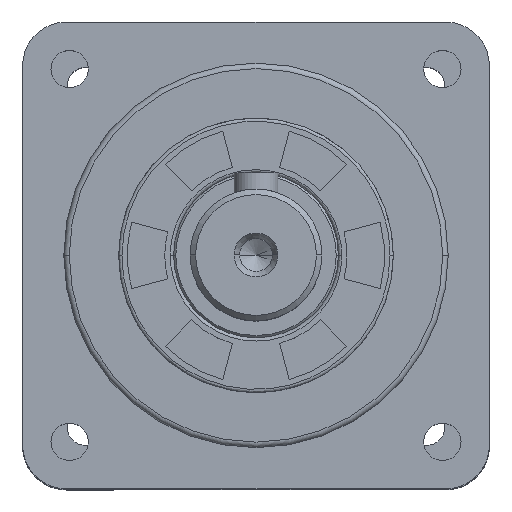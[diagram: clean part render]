
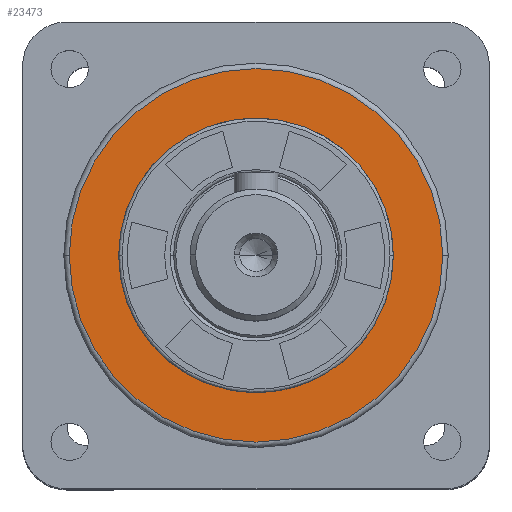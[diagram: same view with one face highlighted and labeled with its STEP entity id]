
A CAD part, top view. The second image highlights one B-rep face of the part: STEP entity #23473.
In plain terms, the highlighted planar face has unit normal (0, 0, 1).
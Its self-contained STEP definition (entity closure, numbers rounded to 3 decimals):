
#265 = AXIS2_PLACEMENT_3D ( 'NONE', #9921, #7564, #1534 ) ;
#299 = AXIS2_PLACEMENT_3D ( 'NONE', #1991, #16458, #3902 ) ;
#592 = ORIENTED_EDGE ( 'NONE', *, *, #10658, .T. ) ;
#1208 = CARTESIAN_POINT ( 'NONE',  ( 17., 0., 14.8 ) ) ;
#1534 = DIRECTION ( 'NONE',  ( 1., 0., 0. ) ) ;
#1587 = DIRECTION ( 'NONE',  ( 0., 0., 1. ) ) ;
#1607 = DIRECTION ( 'NONE',  ( 0., 0., 1. ) ) ;
#1991 = CARTESIAN_POINT ( 'NONE',  ( 0., 0., 14.8 ) ) ;
#2288 = EDGE_LOOP ( 'NONE', ( #592, #14437 ) ) ;
#3902 = DIRECTION ( 'NONE',  ( 1., 0., 0. ) ) ;
#4171 = CARTESIAN_POINT ( 'NONE',  ( -12.5, 0., 14.8 ) ) ;
#5940 = ORIENTED_EDGE ( 'NONE', *, *, #9300, .F. ) ;
#6894 = CARTESIAN_POINT ( 'NONE',  ( 12.5, 0., 14.8 ) ) ;
#7184 = ORIENTED_EDGE ( 'NONE', *, *, #25362, .F. ) ;
#7564 = DIRECTION ( 'NONE',  ( 0., 0., 1. ) ) ;
#7729 = CARTESIAN_POINT ( 'NONE',  ( -17., 0., 14.8 ) ) ;
#8781 = EDGE_LOOP ( 'NONE', ( #7184, #5940 ) ) ;
#9300 = EDGE_CURVE ( 'NONE', #20404, #13860, #17816, .T. ) ;
#9783 = CIRCLE ( 'NONE', #11820, 17. ) ;
#9916 = FACE_BOUND ( 'NONE', #8781, .T. ) ;
#9921 = CARTESIAN_POINT ( 'NONE',  ( 0., 0., 14.8 ) ) ;
#10658 = EDGE_CURVE ( 'NONE', #12835, #16430, #11942, .T. ) ;
#11797 = DIRECTION ( 'NONE',  ( 1., 0., 0. ) ) ;
#11820 = AXIS2_PLACEMENT_3D ( 'NONE', #18328, #1607, #24502 ) ;
#11942 = CIRCLE ( 'NONE', #17266, 17. ) ;
#11946 = CARTESIAN_POINT ( 'NONE',  ( 0., 0., 14.8 ) ) ;
#12835 = VERTEX_POINT ( 'NONE', #1208 ) ;
#13795 = CARTESIAN_POINT ( 'NONE',  ( 0., 0., 14.8 ) ) ;
#13860 = VERTEX_POINT ( 'NONE', #6894 ) ;
#14437 = ORIENTED_EDGE ( 'NONE', *, *, #18778, .T. ) ;
#14771 = FACE_OUTER_BOUND ( 'NONE', #2288, .T. ) ;
#15391 = CIRCLE ( 'NONE', #265, 12.5 ) ;
#16430 = VERTEX_POINT ( 'NONE', #7729 ) ;
#16458 = DIRECTION ( 'NONE',  ( 0., 0., 1. ) ) ;
#17266 = AXIS2_PLACEMENT_3D ( 'NONE', #11946, #1587, #22100 ) ;
#17816 = CIRCLE ( 'NONE', #299, 12.5 ) ;
#17878 = PLANE ( 'NONE',  #22310 ) ;
#18161 = DIRECTION ( 'NONE',  ( 0., 0., 1. ) ) ;
#18328 = CARTESIAN_POINT ( 'NONE',  ( 0., 0., 14.8 ) ) ;
#18778 = EDGE_CURVE ( 'NONE', #16430, #12835, #9783, .T. ) ;
#20404 = VERTEX_POINT ( 'NONE', #4171 ) ;
#22100 = DIRECTION ( 'NONE',  ( 1., 0., 0. ) ) ;
#22310 = AXIS2_PLACEMENT_3D ( 'NONE', #13795, #18161, #11797 ) ;
#23473 = ADVANCED_FACE ( 'NONE', ( #9916, #14771 ), #17878, .T. ) ;
#24502 = DIRECTION ( 'NONE',  ( 1., 0., 0. ) ) ;
#25362 = EDGE_CURVE ( 'NONE', #13860, #20404, #15391, .T. ) ;
